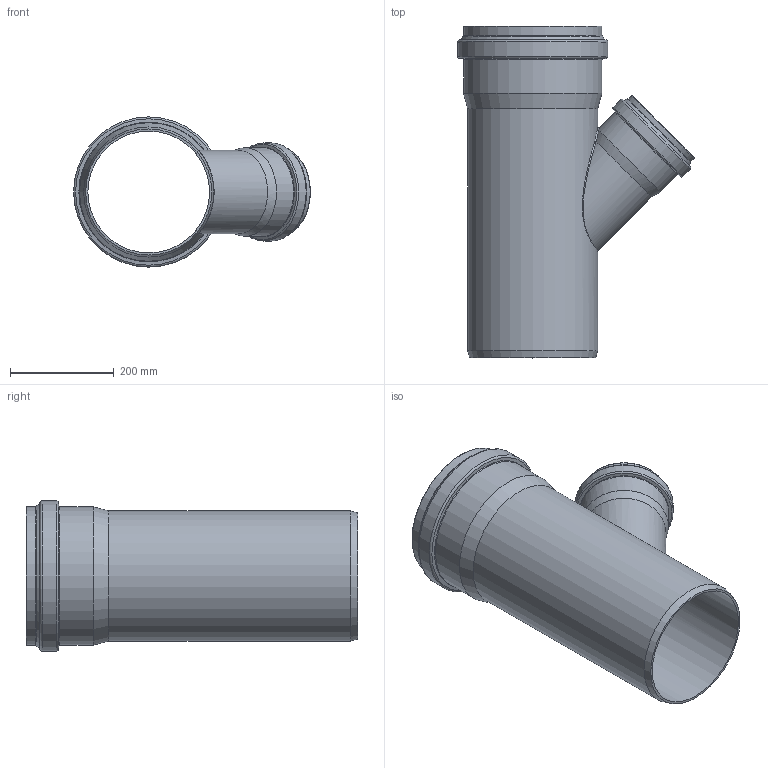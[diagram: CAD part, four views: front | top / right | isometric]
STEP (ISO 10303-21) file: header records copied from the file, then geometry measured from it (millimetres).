
FILE_DESCRIPTION(/* description */ (''),/* implementation_level */ '2;1');
FILE_NAME(/* name */ '772760z.stp',/* time_stamp */ '2025-09-29T12:01:33+02:00',/* author */ ('corinna'),/* organization */ (''),/* preprocessor_version */ 'ST-DEVELOPER v20',/* originating_system */ 'Autodesk Inventor 2024',/* authorisation */ '');
FILE_SCHEMA (('AUTOMOTIVE_DESIGN { 1 0 10303 214 3 1 1 }'));
Length unit declared in the file: millimetre
Products named in the file (1): 772760z
Bounding box: 455.5 x 638.4 x 289 mm (x, y, z)
Volume: 4296474.9 mm3; surface area: 1193137.9 mm2
Topology: 1 solids, 1 shells, 77 faces, 218 edges, 144 vertices
Faces by surface type: torus 28, cone 21, cylinder 18, bspline 5, plane 5
Full cylindrical faces by diameter (mm): 161 x1, 161.3 x2, 170.4 x1, 170.7 x1, 179.4 x1, 188.8 x1, 234.3 x1, 250.3 x1, 251.7 x1, 252.1 x2, 266.1 x1, 266.5 x1, 274.6 x1, 289 x1
Entity records: 3825 total; most frequent: CARTESIAN_POINT 1687, DIRECTION 492, ORIENTED_EDGE 436, AXIS2_PLACEMENT_3D 227, EDGE_CURVE 218, CIRCLE 154, VERTEX_POINT 144, EDGE_LOOP 82
